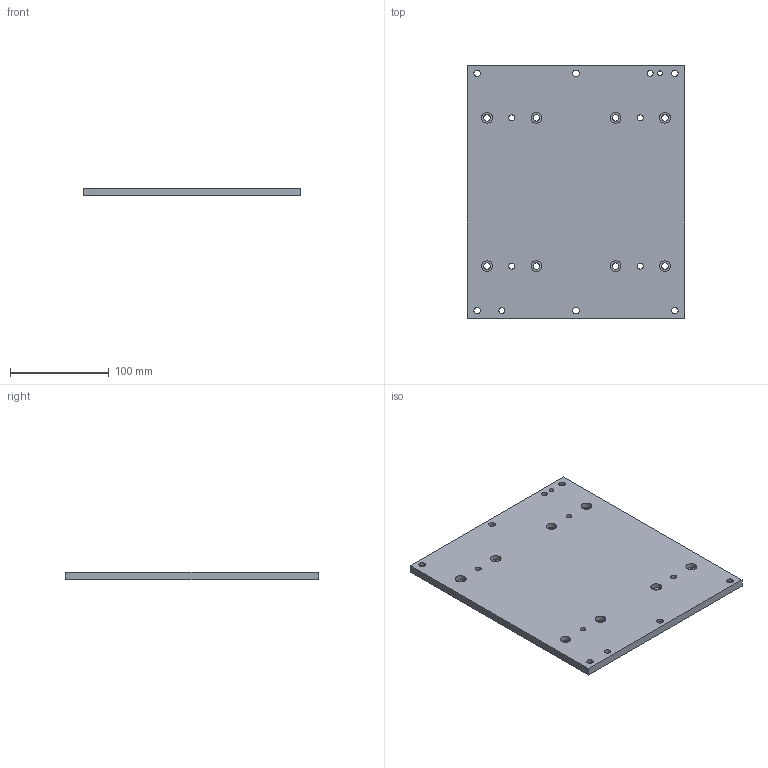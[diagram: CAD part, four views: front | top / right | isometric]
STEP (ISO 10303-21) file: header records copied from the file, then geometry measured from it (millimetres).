
FILE_DESCRIPTION (( 'STEP AP203' ), '1' );
FILE_NAME ('TE0726-3 - Kreuztisch - Verbindungsplatte 2.STEP', '2006-05-12T06:04:56', ( ' ' ), ( ' ' ), 'SwSTEP 2.0', 'SolidWorks 2006089', '' );
FILE_SCHEMA (( 'CONFIG_CONTROL_DESIGN' ));
Length unit declared in the file: millimetre
Products named in the file (1): TE0726-3 - Kreuztisch - Verbindungsplatte 2
Bounding box: 220 x 255 x 8 mm (x, y, z)
Volume: 439196.5 mm3; surface area: 122783.8 mm2
Topology: 1 solids, 1 shells, 90 faces, 222 edges, 148 vertices
Faces by surface type: cylinder 70, plane 20
Entity records: 2907 total; most frequent: DIRECTION 544, CARTESIAN_POINT 461, ORIENTED_EDGE 444, AXIS2_PLACEMENT_3D 231, EDGE_CURVE 222, VERTEX_POINT 148, EDGE_LOOP 146, CIRCLE 140
